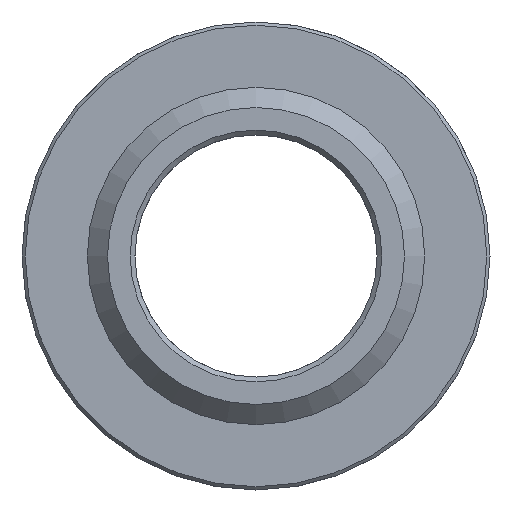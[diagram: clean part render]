
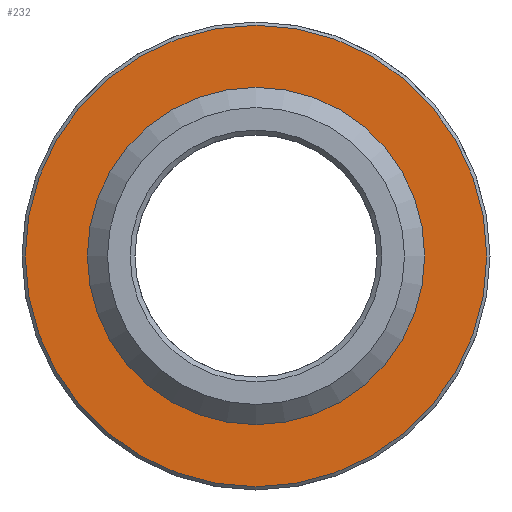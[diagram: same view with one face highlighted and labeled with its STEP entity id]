
A CAD part, front view. The second image highlights one B-rep face of the part: STEP entity #232.
In plain terms, the highlighted planar face has unit normal (0, -1, 0).
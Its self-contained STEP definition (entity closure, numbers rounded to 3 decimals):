
#14=FACE_BOUND('',#44,.T.);
#17=PLANE('',#274);
#30=FACE_OUTER_BOUND('',#43,.T.);
#43=EDGE_LOOP('',(#171));
#44=EDGE_LOOP('',(#172,#173));
#75=CIRCLE('',#262,9.25);
#76=CIRCLE('',#263,9.25);
#84=CIRCLE('',#275,14.3);
#96=VERTEX_POINT('',#377);
#97=VERTEX_POINT('',#378);
#105=VERTEX_POINT('',#403);
#117=EDGE_CURVE('',#96,#97,#75,.T.);
#118=EDGE_CURVE('',#97,#96,#76,.T.);
#130=EDGE_CURVE('',#105,#105,#84,.T.);
#171=ORIENTED_EDGE('',*,*,#130,.F.);
#172=ORIENTED_EDGE('',*,*,#117,.T.);
#173=ORIENTED_EDGE('',*,*,#118,.T.);
#232=ADVANCED_FACE('',(#30,#14),#17,.T.);
#262=AXIS2_PLACEMENT_3D('',#379,#299,#300);
#263=AXIS2_PLACEMENT_3D('',#380,#301,#302);
#274=AXIS2_PLACEMENT_3D('',#402,#327,#328);
#275=AXIS2_PLACEMENT_3D('',#404,#329,#330);
#299=DIRECTION('center_axis',(0.,1.,0.));
#300=DIRECTION('ref_axis',(1.,0.,0.));
#301=DIRECTION('center_axis',(0.,1.,0.));
#302=DIRECTION('ref_axis',(1.,0.,0.));
#327=DIRECTION('center_axis',(0.,-1.,0.));
#328=DIRECTION('ref_axis',(0.,0.,-1.));
#329=DIRECTION('center_axis',(0.,1.,0.));
#330=DIRECTION('ref_axis',(1.,0.,0.));
#377=CARTESIAN_POINT('',(-9.25,12.,0.));
#378=CARTESIAN_POINT('',(9.25,12.,0.));
#379=CARTESIAN_POINT('Origin',(0.,12.,0.));
#380=CARTESIAN_POINT('Origin',(0.,12.,0.));
#402=CARTESIAN_POINT('Origin',(-14.5,12.,0.));
#403=CARTESIAN_POINT('',(-14.3,12.,0.));
#404=CARTESIAN_POINT('Origin',(0.,12.,0.));
